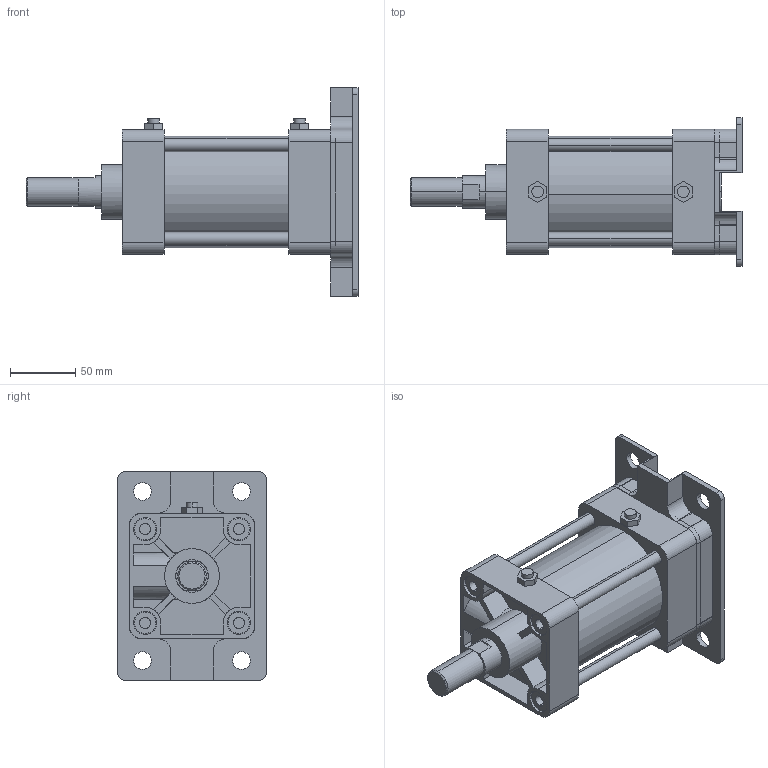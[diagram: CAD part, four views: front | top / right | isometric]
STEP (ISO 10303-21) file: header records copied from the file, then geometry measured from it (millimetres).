
FILE_DESCRIPTION (( 'STEP AP203' ), '1' );
FILE_NAME ('KG2-80-50-B.STEP', '2016-04-01T08:19:08', ( '' ), ( '' ), 'SwSTEP 2.0', 'SolidWorks 2014', '' );
FILE_SCHEMA (( 'CONFIG_CONTROL_DESIGN' ));
Length unit declared in the file: millimetre
Products named in the file (7): KG2-80-After; KGLH2-80-50; KG2-80-50-B; K-80-AB
Assembly tree (16 placements, depth 2):
  KG2-80-50-B
    KG2-80-After
    KGLH2-80-50
    (unnamed)
    (unnamed)  x4
    (unnamed)  x8
    K-80-AB
Bounding box: 255 x 114 x 160 mm (x, y, z)
Volume: 1123151.3 mm3; surface area: 220837.5 mm2
Topology: 16 solids, 16 shells, 377 faces, 926 edges, 596 vertices
Faces by surface type: plane 163, cylinder 156, torus 32, cone 26
Entity records: 9927 total; most frequent: CARTESIAN_POINT 1652, DIRECTION 1596, ORIENTED_EDGE 1472, EDGE_CURVE 736, AXIS2_PLACEMENT_3D 582, VERTEX_POINT 486, LINE 432, VECTOR 432
